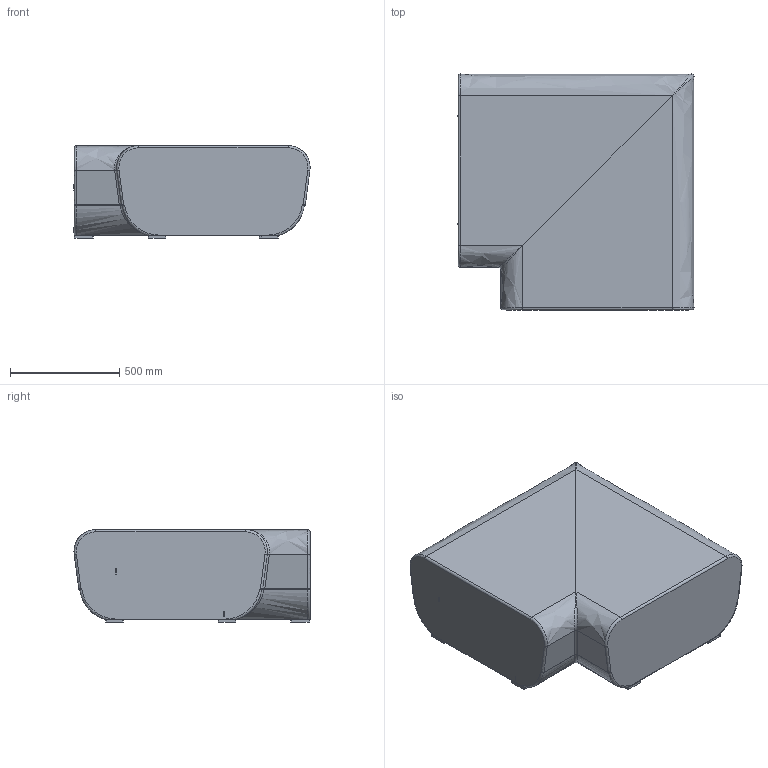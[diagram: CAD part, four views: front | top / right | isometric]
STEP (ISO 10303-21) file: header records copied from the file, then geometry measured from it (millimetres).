
FILE_DESCRIPTION(/* description */ (''),/* implementation_level */ '2;1');
FILE_NAME(/* name */ 'OPA350~1',/* time_stamp */ '2015-09-28T22:42:55+02:00',/* author */ (''),/* organization */ (''),/* preprocessor_version */ 'ST-DEVELOPER v15',/* originating_system */ '',/* authorisation */ '');
FILE_SCHEMA (('AUTOMOTIVE_DESIGN'));
Length unit declared in the file: millimetre
Products named in the file (1): Document
Bounding box: 1081.22 x 1080.72 x 424 mm (x, y, z)
Volume: 421936.5 mm3; surface area: 3732636.3 mm2
Topology: 5 solids, 11 shells, 101 faces, 271 edges, 185 vertices
Faces by surface type: bspline 80, plane 21
Entity records: 3804 total; most frequent: CARTESIAN_POINT 2295, ORIENTED_EDGE 466, EDGE_CURVE 267, VERTEX_POINT 182, ADVANCED_FACE 101, FACE_OUTER_BOUND 101, EDGE_LOOP 101, B_SPLINE_CURVE_WITH_KNOTS 55
